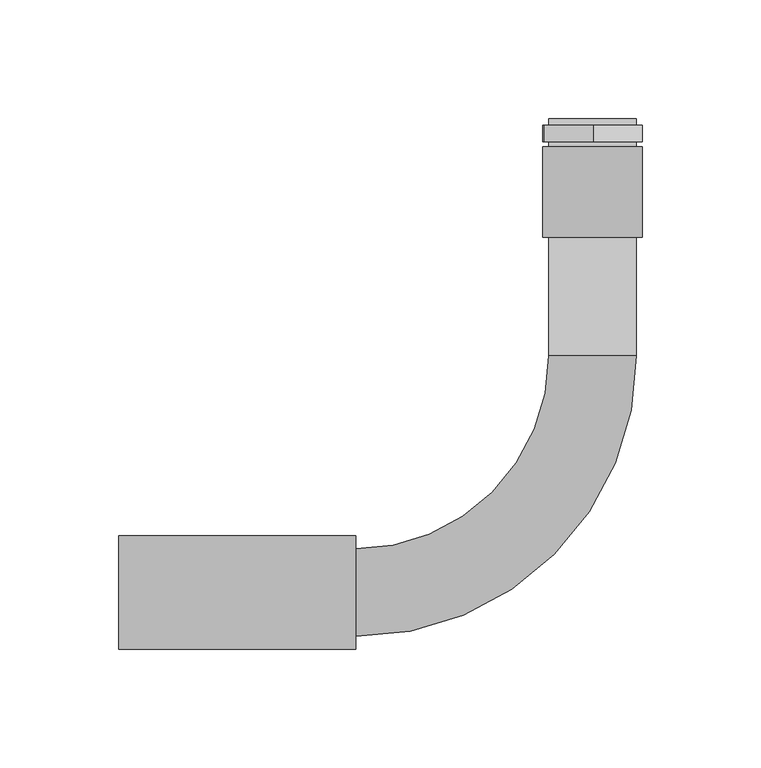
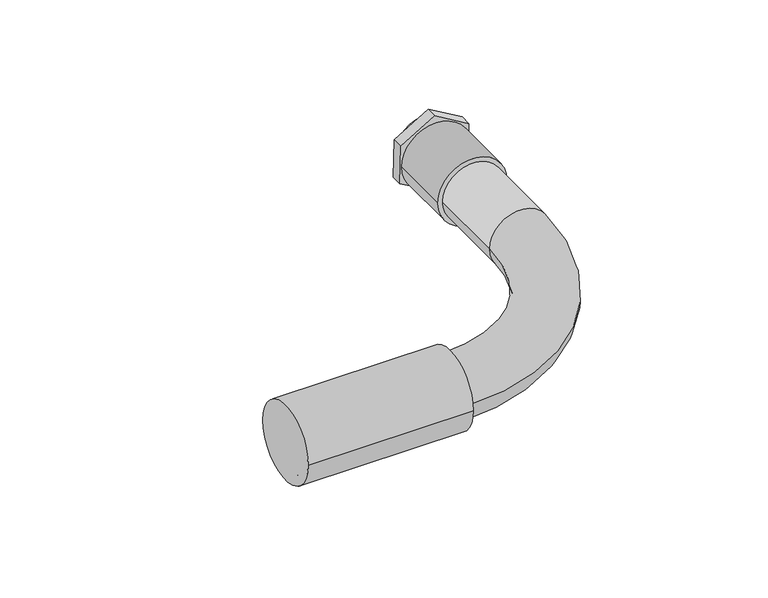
"""IFC4 building model written with IfcOpenShell, lengths in millimetres: cable carrier fitting geometry, Муфта_гибкая_труба-коробка_IP44 : Муфта гибкая труба-коробка D32мм."""

from ifc_helpers import new_model, si_unit, point, frame, frame_2d, origin, origin_2d, place, context, project, spatial, polyline, circle_curve, ellipse_curve, trimmed, segment, composite_curve, outline, extrude, source, transform, mapped, element, save
from ifc_brep_helpers import plane_surface, cylinder_surface, revolved_surface, advanced_brep


def cable_carrier_fitting_2938c938(model_context):
    return source(origin(), model_context, "Body", "SolidModel", [
        extrude(outline(polyline([(-12.0771157, -21.0), (-23.6960658, 0.0), (-12.0771157, 21.0), (11.9228843, 21.0), (24.1089345, 0.3239225), (11.9139968, -20.3469143), (-12.0771157, -21.0)])), frame((0.0, 190.1018563, 0.0), z_axis=(0.0, 1.0, 0.0), x_axis=(0.0, 0.0, 1.0)), (0.0, 0.0, 1.0), 7.0),
        extrude(outline(composite_curve([segment(trimmed(circle_curve(frame_2d((0.0032191, -0.0900025)), 16.5), [point((0.0032191, 16.4099975))], [point((0.0032191, -16.5900025))], False, "CARTESIAN"), True, "CONTINUOUS"), segment(trimmed(circle_curve(frame_2d((0.0032191, -0.0900025)), 16.5), [point((0.0032191, -16.5900025))], [point((0.0032191, 16.4099975))], False, "CARTESIAN"), True, "CONTINUOUS")], self_intersect=False)), frame((0.0, 188.0, 0.0), z_axis=(0.0, 1.0, 0.0), x_axis=(0.0, 0.0, 1.0)), (0.0, 0.0, 1.0), 12.0),
        advanced_brep(
        [(20.9094864, 188.0, 0.0), (-21.0905136, 188.0, 0.0), (-16.0905136, 188.0, 0.0057257), (15.9094864, 188.0, 0.0057257), (20.9094864, 150.0, 0.0), (-21.0905136, 150.0, 0.0), (15.9094864, 153.5421201, 0.0057257), (-16.0905136, 153.5421201, 0.0057257)],
        [
            (0, 1, circle_curve(frame((-0.0905136, 188.0, 0.0), z_axis=(0.0, 1.0, 0.0), x_axis=(-1.0, 0.0, 0.0)), 21.0)),
            (1, 0, circle_curve(frame((-0.0905136, 188.0, 0.0), z_axis=(0.0, 1.0, 0.0), x_axis=(-1.0, 0.0, 0.0)), 21.0)),
            (2, 3, circle_curve(frame((-0.0905136, 188.0, 0.0057257), z_axis=(0.0, -1.0, 0.0), x_axis=(-1.0, 0.0, 0.0)), 16.0)),
            (3, 2, circle_curve(frame((-0.0905136, 188.0, 0.0057257), z_axis=(0.0, -1.0, 0.0), x_axis=(-1.0, 0.0, 0.0)), 16.0)),
            (4, 5, circle_curve(frame((-0.0905136, 150.0, 0.0), z_axis=(0.0, -1.0, 0.0), x_axis=(-1.0, 0.0, 0.0)), 21.0)),
            (5, 4, circle_curve(frame((-0.0905136, 150.0, 0.0), z_axis=(0.0, -1.0, 0.0), x_axis=(-1.0, 0.0, 0.0)), 21.0)),
            (0, 4),
            (5, 1),
            (6, 7, circle_curve(frame((-0.0905136, 153.5421201, 0.0057257), z_axis=(0.0, 1.0, 0.0), x_axis=(-1.0, 0.0, 0.0)), 16.0)),
            (7, 6, circle_curve(frame((-0.0905136, 153.5421201, 0.0057257), z_axis=(0.0, 1.0, 0.0), x_axis=(-1.0, 0.0, 0.0)), 16.0)),
            (6, 3),
            (2, 7),
        ],
        [
            plane_surface(frame((-21.0905136, 188.0, 0.0), z_axis=(0.0, 1.0, 0.0), x_axis=(0.0, 0.0, 1.0))),
            plane_surface(frame((-21.0905136, 150.0, 0.0), z_axis=(0.0, -1.0, 0.0), x_axis=(0.0, 0.0, -1.0))),
            cylinder_surface(frame((-0.0905136, 150.0, 0.0), z_axis=(0.0, 1.0, 0.0), x_axis=(-1.0, 0.0, 0.0)), 21.0),
            plane_surface(frame((-16.0905136, 153.5421201, 0.0057257), z_axis=(0.0, 1.0, 0.0), x_axis=(0.0, 0.0, -1.0))),
            revolved_surface(polyline([(-16.0905136, 188.0, 0.0057257), (-16.0905136, 153.5421201, 0.0057257)]), (-0.0905136, 153.5421201, 0.0057257), (0.0, 1.0, 0.0)),
        ],
        [
            (0, [[1, 2], [3, 4]]),
            (1, [[5, 6]]),
            (2, [[-1, 7, -6, 8]]),
            (2, [[-2, -8, -5, -7]]),
            (3, [[9, 10]]),
            (4, [[-9, 11, -3, 12]]),
            (4, [[-10, -12, -4, -11]]),
        ],
    ),
        extrude(outline(composite_curve([segment(trimmed(circle_curve(origin_2d(), 24.0), [point((-24.0, 0.0))], [point((24.0, 0.0))], False, "CARTESIAN"), True, "CONTINUOUS"), segment(trimmed(circle_curve(origin_2d(), 24.0), [point((24.0, 0.0))], [point((-24.0, 0.0))], False, "CARTESIAN"), True, "CONTINUOUS")], self_intersect=False)), frame((-200.0, 0.0, 0.0), z_axis=(1.0, 0.0, 0.0), x_axis=(0.0, 1.0, 0.0)), (0.0, 0.0, 1.0), 100.0),
        advanced_brep(
        [(-200.0, -18.5, 0.0), (-200.0, 18.5, 0.0), (-100.0, -18.5, 0.0), (-100.0, 18.5, 0.0), (-18.5, 100.0, 0.0), (18.5, 100.0, 0.0), (18.5, 200.0, 0.0), (-18.5, 200.0, 0.0)],
        [
            (0, 1, circle_curve(frame((-200.0, 0.0, 0.0), z_axis=(-1.0, 0.0, 0.0), x_axis=(0.0, 1.0, 0.0)), 18.5)),
            (1, 0, circle_curve(frame((-200.0, 0.0, 0.0), z_axis=(-1.0, 0.0, 0.0), x_axis=(0.0, 1.0, 0.0)), 18.5)),
            (0, 2),
            (2, 3, circle_curve(frame((-100.0, 0.0, 0.0), z_axis=(-1.0, 0.0, 0.0), x_axis=(0.0, 1.0, 0.0)), 18.5)),
            (3, 1),
            (3, 2, circle_curve(frame((-100.0, 0.0, 0.0), z_axis=(-1.0, 0.0, 0.0), x_axis=(0.0, 1.0, 0.0)), 18.5)),
            (4, 3, circle_curve(frame((-100.0, 100.0, 0.0), z_axis=(0.0, 0.0, -1.0), x_axis=(0.0, -1.0, 0.0)), 81.5)),
            (2, 5, circle_curve(frame((-100.0, 100.0, 0.0), z_axis=(0.0, 0.0, 1.0), x_axis=(0.0, -1.0, 0.0)), 118.5)),
            (5, 4, circle_curve(frame((0.0, 100.0, 0.0), z_axis=(0.0, -1.0, 0.0), x_axis=(-1.0, 0.0, 0.0)), 18.5)),
            (4, 5, circle_curve(frame((0.0, 100.0, 0.0), z_axis=(0.0, -1.0, 0.0), x_axis=(-1.0, 0.0, 0.0)), 18.5)),
            (6, 7, circle_curve(frame((0.0, 200.0, 0.0), z_axis=(0.0, 1.0, 0.0), x_axis=(-1.0, 0.0, 0.0)), 18.5)),
            (7, 6, circle_curve(frame((0.0, 200.0, 0.0), z_axis=(0.0, 1.0, 0.0), x_axis=(-1.0, 0.0, 0.0)), 18.5)),
            (5, 6),
            (7, 4),
        ],
        [
            plane_surface(frame((-200.0, 0.0, 0.0), z_axis=(-1.0, 0.0, 0.0), x_axis=(0.0, 0.0, 1.0))),
            cylinder_surface(frame((-200.0, 0.0, 0.0), z_axis=(-1.0, 0.0, 0.0), x_axis=(0.0, 1.0, 0.0)), 18.5),
            revolved_surface(trimmed(ellipse_curve(frame((-100.0, 0.0, 0.0), z_axis=(-1.0, 0.0, 0.0), x_axis=(0.0, 1.0, 0.0)), 18.5, 18.5), [point((-100.0, -18.5, 0.0))], [point((-100.0, 18.5, 0.0))], True, "CARTESIAN"), (-100.0, 100.0, 0.0), (0.0, 0.0, 1.0)),
            revolved_surface(trimmed(ellipse_curve(frame((-100.0, 0.0, 0.0), z_axis=(-1.0, 0.0, 0.0), x_axis=(0.0, 1.0, 0.0)), 18.5, 18.5), [point((-100.0, 18.5, 0.0))], [point((-100.0, -18.5, 0.0))], True, "CARTESIAN"), (-100.0, 100.0, 0.0), (0.0, 0.0, 1.0)),
            plane_surface(frame((0.0, 200.0, 0.0), z_axis=(0.0, 1.0, 0.0), x_axis=(0.0, 0.0, 1.0))),
            cylinder_surface(frame((0.0, 100.0, 0.0), z_axis=(0.0, -1.0, 0.0), x_axis=(-1.0, 0.0, 0.0)), 18.5),
        ],
        [
            (0, [[1, 2]]),
            (1, [[-1, 3, 4, 5]]),
            (1, [[-2, -5, 6, -3]]),
            (2, [[7, -4, 8, 9]]),
            (3, [[-8, -6, -7, 10]]),
            (4, [[11, 12]]),
            (5, [[-9, 13, -12, 14]]),
            (5, [[-10, -14, -11, -13]]),
        ],
    ),
    ])


if __name__ == "__main__":
    model = new_model("IFC4")
    model_context = context("Model", 3, world=origin())
    ifc_project = project(units=[si_unit("LENGTHUNIT", "METRE", prefix="MILLI")], contexts=[model_context])
    site = spatial("IfcSite", under=ifc_project)
    building = spatial("IfcBuilding", under=site)
    placement = place(None, origin())
    cable_carrier_fitting_shape = cable_carrier_fitting_2938c938(model_context)
    element("IfcCableCarrierFitting", 1, ObjectType="Муфта_гибкая_труба-коробка_IP44 : Муфта гибкая труба-коробка D32мм", at=placement, inside=building, context=model_context, shape_type="MappedRepresentation", body=[
        mapped(cable_carrier_fitting_shape, transform((0.0, 0.0, 0.0), x_axis=(1.0, 0.0, 0.0), y_axis=(0.0, 1.0, 0.0), z_axis=(0.0, 0.0, 1.0))),
    ])
    save(model, "model.ifc")
